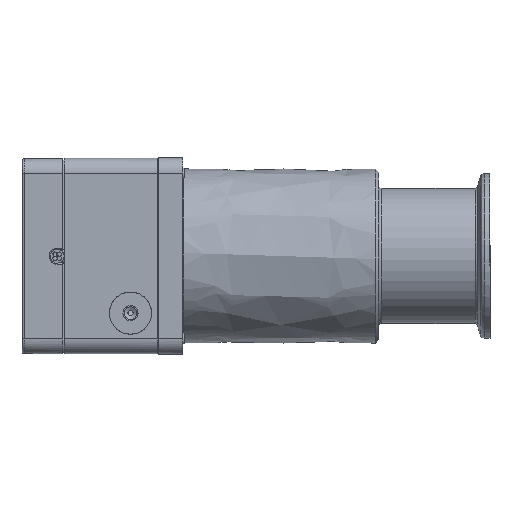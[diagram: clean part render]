
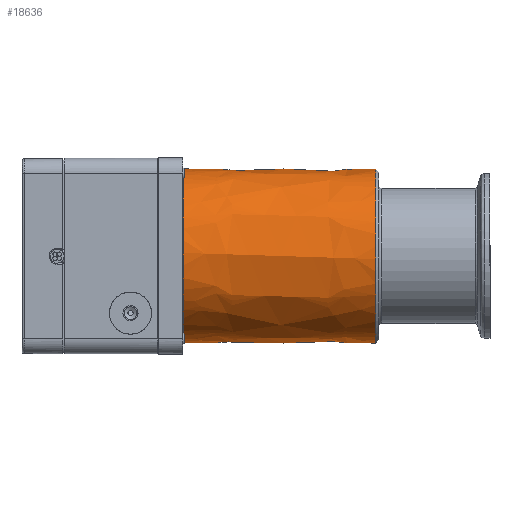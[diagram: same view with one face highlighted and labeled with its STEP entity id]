
A CAD part, left-side view. The second image highlights one B-rep face of the part: STEP entity #18636.
In plain terms, the highlighted free-form (B-spline) face has degree [2, 1] with [7, 2] control points.
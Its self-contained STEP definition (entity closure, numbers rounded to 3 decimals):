
#17949=CARTESIAN_POINT('V34',(38.,28.95,
   0.0));
#17950=VERTEX_POINT('V34',#17949);
#17958=CARTESIAN_POINT('E59',(38.,28.95,
   0.));
#17959=CARTESIAN_POINT('E59',(38.,28.95,
   50.143));
#17960=CARTESIAN_POINT('E59',(38.,-14.475,
   25.071));
#17961=CARTESIAN_POINT('E59',(38.,-57.9,
   0.));
#17962=CARTESIAN_POINT('E59',(38.,-14.475,
   -25.071));
#17963=CARTESIAN_POINT('E59',(38.,28.95,
   -50.143));
#17964=CARTESIAN_POINT('E59',(38.,28.95,
   0.));
#17972=(BOUNDED_CURVE()B_SPLINE_CURVE(2,(#17958,#17959,#17960,
   #17961,#17962,#17963,#17964),.CIRCULAR_ARC.,.T.,.U.)
   B_SPLINE_CURVE_WITH_KNOTS((3,2,2,3),(2.0,43.393,
   84.786,126.179),.UNSPECIFIED.)CURVE()
   GEOMETRIC_REPRESENTATION_ITEM()RATIONAL_B_SPLINE_CURVE((1.0,
   0.5,1.0,0.5,1.0,0.5,1.0)
   )REPRESENTATION_ITEM('E59'));
#17973=EDGE_CURVE('E59',#17950,#17950,#17972,.T.);
#18510=CARTESIAN_POINT('V17',(102.,28.95,
   0.0));
#18511=VERTEX_POINT('V17',#18510);
#18519=CARTESIAN_POINT('E27',(102.,28.95,
   0.0));
#18520=CARTESIAN_POINT('E27',(102.0,28.95,
   -50.143));
#18521=CARTESIAN_POINT('E27',(102.,
   -14.475,-25.071));
#18522=CARTESIAN_POINT('E27',(102.0,-57.9,
   0.));
#18523=CARTESIAN_POINT('E27',(102.,
   -14.475,25.071));
#18524=CARTESIAN_POINT('E27',(102.0,28.95,
   50.143));
#18525=CARTESIAN_POINT('E27',(102.,28.95,
   0.0));
#18533=(BOUNDED_CURVE()B_SPLINE_CURVE(2,(#18519,#18520,#18521,
   #18522,#18523,#18524,#18525),.CIRCULAR_ARC.,.T.,.U.)
   B_SPLINE_CURVE_WITH_KNOTS((3,2,2,3),(0.0,355.788,
   711.577,1067.365),.UNSPECIFIED.)CURVE()
   GEOMETRIC_REPRESENTATION_ITEM()RATIONAL_B_SPLINE_CURVE((1.0,
   0.5,1.0,0.5,1.0,0.5,1.0)
   )REPRESENTATION_ITEM('E27'));
#18534=EDGE_CURVE('E27',#18511,#18511,#18533,.T.);
#18539=CARTESIAN_POINT('F27',(37.,28.95,
   0.0));
#18540=CARTESIAN_POINT('F27',(37.,28.95,
   50.143));
#18541=CARTESIAN_POINT('F27',(37.,-14.475,
   25.071));
#18542=CARTESIAN_POINT('F27',(37.,-57.9,
   0.));
#18543=CARTESIAN_POINT('F27',(37.,-14.475,
   -25.071));
#18544=CARTESIAN_POINT('F27',(37.,28.95,
   -50.143));
#18545=CARTESIAN_POINT('F27',(37.,28.95,
   0.0));
#18546=CARTESIAN_POINT('F27',(102.,28.95,
   0.0));
#18547=CARTESIAN_POINT('F27',(102.0,28.95,
   50.143));
#18548=CARTESIAN_POINT('F27',(102.,
   -14.475,25.071));
#18549=CARTESIAN_POINT('F27',(102.0,-57.9,
   0.));
#18550=CARTESIAN_POINT('F27',(102.,
   -14.475,-25.071));
#18551=CARTESIAN_POINT('F27',(102.0,28.95,
   -50.143));
#18552=CARTESIAN_POINT('F27',(102.,28.95,
   0.0));
#18560=(BOUNDED_SURFACE()B_SPLINE_SURFACE(2,1,((#18539,#18546),(
   #18540,#18547),(#18541,#18548),(#18542,#18549),(#18543,
   #18550),(#18544,#18551),(#18545,#18552)),.CYLINDRICAL_SURF.,
   .T.,.F.,.U.)B_SPLINE_SURFACE_WITH_KNOTS((3,2,2,3),(2,2),(0.0,
   1.543,3.086,4.629),(0.0,1.0),
   .UNSPECIFIED.)GEOMETRIC_REPRESENTATION_ITEM()
   RATIONAL_B_SPLINE_SURFACE(((1.0,1.0),(0.5,
   0.5),(1.0,1.0),(0.5,
   0.5),(1.0,1.0),(0.5,
   0.5),(1.0,1.0)))REPRESENTATION_ITEM('F27')SURFACE(
   ));
#18561=ORIENTED_EDGE('E59',*,*,#17973,.F.);
#18562=CARTESIAN_POINT('V32',(45.,28.95,
   0.0));
#18563=VERTEX_POINT('V32',#18562);
#18564=CARTESIAN_POINT('E52',(45.,28.95,
   0.0));
#18565=CARTESIAN_POINT('E52',(38.,28.95,
   0.0));
#18566=B_SPLINE_CURVE_WITH_KNOTS('E52',1,(#18564,#18565),
   .POLYLINE_FORM.,.F.,.U.,(2,2),(0.877,
   0.985),.UNSPECIFIED.);
#18567=EDGE_CURVE('E52',#18563,#17950,#18566,.T.);
#18568=ORIENTED_EDGE('E52',*,*,#18567,.F.);
#18569=CARTESIAN_POINT('V31',(65.0,20.931,
   20.));
#18570=VERTEX_POINT('V31',#18569);
#18571=CARTESIAN_POINT('E51',(65.0,20.931,
   20.));
#18572=CARTESIAN_POINT('E51',(64.201,20.931,
   20.));
#18573=CARTESIAN_POINT('E51',(63.408,20.977,
   19.952));
#18574=CARTESIAN_POINT('E51',(59.932,21.369,
   19.536));
#18575=CARTESIAN_POINT('E51',(57.478,22.158,
   18.689));
#18576=CARTESIAN_POINT('E51',(53.132,23.977,
   16.297));
#18577=CARTESIAN_POINT('E51',(51.059,25.111,
   14.603));
#18578=CARTESIAN_POINT('E51',(47.714,27.115,
   10.395));
#18579=CARTESIAN_POINT('E51',(46.315,28.052,
   7.802));
#18580=CARTESIAN_POINT('E51',(45.192,28.816,
   3.188));
#18581=CARTESIAN_POINT('E51',(45.,28.95,
   1.603));
#18582=CARTESIAN_POINT('E51',(45.,28.95,
   0.0));
#18583=B_SPLINE_CURVE_WITH_KNOTS('E51',3,(#18571,#18572,#18573,
   #18574,#18575,#18576,#18577,#18578,#18579,#18580,#18581,#18582),
   .UNSPECIFIED.,.F.,.U.,(4,2,2,2,2,4),(0.0,0.076,
   0.337,0.61,0.87,1.0),
   .UNSPECIFIED.);
#18584=EDGE_CURVE('E51',#18570,#18563,#18583,.T.);
#18585=ORIENTED_EDGE('E51',*,*,#18584,.F.);
#18586=CARTESIAN_POINT('V33',(85.0,28.95,0.0));
#18587=VERTEX_POINT('V33',#18586);
#18588=CARTESIAN_POINT('E55',(85.,28.95,
   0.0));
#18589=CARTESIAN_POINT('E55',(85.,28.95,
   1.628));
#18590=CARTESIAN_POINT('E55',(84.802,28.812,
   3.236));
#18591=CARTESIAN_POINT('E55',(84.055,28.304,
   6.261));
#18592=CARTESIAN_POINT('E55',(83.534,27.953,
   7.658));
#18593=CARTESIAN_POINT('E55',(81.427,26.585,
   11.857));
#18594=CARTESIAN_POINT('E55',(79.397,25.33,
   14.167));
#18595=CARTESIAN_POINT('E55',(74.753,22.998,
   17.721));
#18596=CARTESIAN_POINT('E55',(71.917,21.837,
   19.025));
#18597=CARTESIAN_POINT('E55',(67.587,21.054,
   19.874));
#18598=CARTESIAN_POINT('E55',(66.303,20.931,
   20.));
#18599=CARTESIAN_POINT('E55',(65.0,20.931,
   20.));
#18600=B_SPLINE_CURVE_WITH_KNOTS('E55',3,(#18588,#18589,#18590,
   #18591,#18592,#18593,#18594,#18595,#18596,#18597,#18598,#18599),
   .UNSPECIFIED.,.F.,.U.,(4,2,2,2,2,4),(0.0,0.14,
   0.272,0.561,0.872,1.0),
   .UNSPECIFIED.);
#18601=EDGE_CURVE('E55',#18587,#18570,#18600,.T.);
#18602=ORIENTED_EDGE('E55',*,*,#18601,.F.);
#18603=CARTESIAN_POINT('E54',(102.,28.95,
   0.0));
#18604=CARTESIAN_POINT('E54',(85.,28.95,
   0.0));
#18605=B_SPLINE_CURVE_WITH_KNOTS('E54',1,(#18603,#18604),
   .POLYLINE_FORM.,.F.,.U.,(2,2),(0.0,0.262),
   .UNSPECIFIED.);
#18606=EDGE_CURVE('E54',#18511,#18587,#18605,.T.);
#18607=ORIENTED_EDGE('E54',*,*,#18606,.F.);
#18608=ORIENTED_EDGE('F15',*,*,#18534,.F.);
#18609=ORIENTED_EDGE('E54',*,*,#18606,.T.);
#18610=CARTESIAN_POINT('E53',(45.,28.95,
   0.0));
#18611=CARTESIAN_POINT('E53',(45.,28.95,
   -1.87));
#18612=CARTESIAN_POINT('E53',(45.261,28.768,
   -3.714));
#18613=CARTESIAN_POINT('E53',(46.097,28.202,
   -6.643));
#18614=CARTESIAN_POINT('E53',(46.526,27.915,
   -7.752));
#18615=CARTESIAN_POINT('E53',(48.505,26.626,
   -11.788));
#18616=CARTESIAN_POINT('E53',(50.587,25.336,
   -14.162));
#18617=CARTESIAN_POINT('E53',(55.379,22.935,
   -17.813));
#18618=CARTESIAN_POINT('E53',(58.355,21.727,
   -19.147));
#18619=CARTESIAN_POINT('E53',(63.018,20.977,
   -19.954));
#18620=CARTESIAN_POINT('E53',(64.465,20.887,
   -20.047));
#18621=CARTESIAN_POINT('E53',(68.889,21.083,
   -19.841));
#18622=CARTESIAN_POINT('E53',(71.524,21.831,
   -19.062));
#18623=CARTESIAN_POINT('E53',(76.721,23.828,
   -16.547));
#18624=CARTESIAN_POINT('E53',(79.516,25.419,
   -14.257));
#18625=CARTESIAN_POINT('E53',(82.806,27.464,
   -9.36));
#18626=CARTESIAN_POINT('E53',(83.831,28.151,
   -7.205));
#18627=CARTESIAN_POINT('E53',(84.808,28.816,
   -3.188));
#18628=CARTESIAN_POINT('E53',(85.,28.95,
   -1.603));
#18629=CARTESIAN_POINT('E53',(85.,28.95,
   0.0));
#18630=B_SPLINE_CURVE_WITH_KNOTS('E53',3,(#18610,#18611,#18612,
   #18613,#18614,#18615,#18616,#18617,#18618,#18619,#18620,#18621,
   #18622,#18623,#18624,#18625,#18626,#18627,#18628,#18629),
   .UNSPECIFIED.,.F.,.U.,(4,2,2,2,2,2,2,2,2,4),(0.0,
   0.077,0.128,0.27,
   0.425,0.493,0.631,
   0.821,0.932,1.0),.UNSPECIFIED.);
#18631=EDGE_CURVE('E53',#18563,#18587,#18630,.T.);
#18632=ORIENTED_EDGE('E53',*,*,#18631,.F.);
#18633=ORIENTED_EDGE('E52',*,*,#18567,.T.);
#18634=EDGE_LOOP('F27',(#18561,#18568,#18585,#18602,#18607,#18608,
   #18609,#18632,#18633));
#18635=FACE_OUTER_BOUND('F27',#18634,.F.);
#18636=ADVANCED_FACE('F27',(#18635),#18560,.T.);
